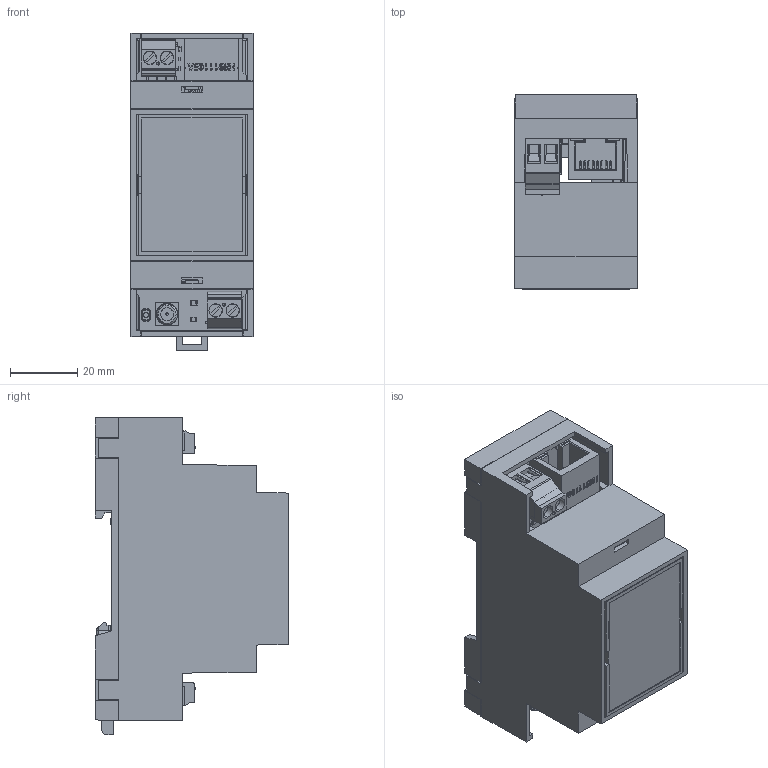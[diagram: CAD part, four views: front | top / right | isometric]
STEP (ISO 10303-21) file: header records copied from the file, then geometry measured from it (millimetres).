
FILE_DESCRIPTION(/* description */ (''),/* implementation_level */ '2;1');
FILE_NAME(/* name */ 'C:\Enapter\CAD\Modules\ENP-R485-ETH_Cad_3d.stp',/* time_stamp */ '2020-03-20T16:13:37+03:00',/* author */ ('IgorAzarkh'),/* organization */ (''),/* preprocessor_version */ 'ST-DEVELOPER v18',/* originating_system */ 'AutoCAD Mechanical',/* authorisation */ '');
FILE_SCHEMA (('AUTOMOTIVE_DESIGN { 1 0 10303 214 3 1 1 }'));
Products named in the file (51): Product; ENP-RS485-ETH; D2MG-BASE; D2MG-BODY; D2MG-COVER; D3MG-WALL-CLIP; ENP-ETH-BOARD-TOP; ENP-ETH-BOARD-BOTTOM; L_Bourns_SRN6045TA; SOLID; ESP32-WROOM-32; SOLID$1$ATF; HR911105A; COMPOUND; QFN32_5x5; SOLID$4$ATF; SOT-23-6; SOLID$5$ATF; C_1210_3225Metric; SOLID$8$ATF; C_0402_1005Metric; SOLID$3$ATF; C_0603_1608Metric; SOLID$9$ATF; SW_SPST_B3U-1000P; SOLID$11$ATF; ipex; SOLID$13$ATF; SMA-J; COMPOUND$2$ATF; PinSocket_1x06_P2.54mm_Vertical; SOLID$14$ATF; LED_0805_2012Metric; SOLID$15$ATF; R_0603_1608Metric; SOLID$2$ATF; C_0805_2012Metric; SOLID$7$ATF; MKDS_3-2-5$08; COMPOUND$1$ATF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
Assembly tree (101 placements, depth 5):
  Product
    ENP-RS485-ETH
      D2MG-BASE
      D2MG-BODY
      D2MG-COVER
      D3MG-WALL-CLIP
      ENP-ETH-BOARD-TOP
        R_0402_1005Metric  x9
          SOLID$10$ATF
        R_0603_1608Metric  x2
          SOLID$2$ATF
        C_0805_2012Metric  x2
          SOLID$7$ATF
        SOLID$2$ATF  x2
      ENP-ETH-BOARD-BOTTOM
        L_Bourns_SRN6045TA
          SOLID
        ESP32-WROOM-32
          SOLID$1$ATF
        HR911105A
          COMPOUND
        R_0603_1608Metric  x3
          SOLID$2$ATF
        C_0402_1005Metric  x5
          SOLID$3$ATF
        QFN32_5x5
          SOLID$4$ATF
        SOT-23-6
          SOLID$5$ATF
        R_0805_2012Metric  x4
          SOLID$6$ATF
        C_0805_2012Metric  x5
          SOLID$7$ATF
        C_1210_3225Metric  x4
          SOLID$8$ATF
        C_0603_1608Metric  x5
          SOLID$9$ATF
        R_0402_1005Metric  x14
          SOLID$10$ATF
        SW_SPST_B3U-1000P
          SOLID$11$ATF
        MKDS_3-2-5$08  x2
          COMPOUND$1$ATF
        MKDSN_2$5  x2
          SOLID$12$ATF
        ipex
          SOLID$13$ATF
        SMA-J
          COMPOUND$2$ATF
        PinSocket_1x06_P2.54mm_Vertical
          SOLID$14$ATF
        LED_0805_2012Metric  x2
          SOLID$15$ATF
        SOIC-8_3.9x4.9mm_P1.27mm
          SOLID$16$ATF
        PinHeader_1x02_P2.54mm_Vertical
          SOLID$17$ATF
        COMPOUND$3$ATF
Bounding box: 36.3 x 57.7 x 94.43 mm (x, y, z)
Volume: 49769.2 mm3; surface area: 62006.5 mm2
Topology: 89 solids, 838 shells, 6253 faces, 18036 edges, 12833 vertices
Faces by surface type: plane 4632, cylinder 1386, bspline 86, torus 55, cone 54, sphere 40
Full cylindrical faces by diameter (mm): 0.3 x8, 0.5 x16, 0.6 x1, 0.7 x22, 0.8 x3, 0.9 x12, 1 x16, 1.2 x1, 1.3 x4, 1.5 x6, 1.7 x2, 1.762 x4, 2 x4, 3.2 x6
Entity records: 173656 total; most frequent: CARTESIAN_POINT 45707, DIRECTION 25404, ORIENTED_EDGE 23924, EDGE_CURVE 13805, LINE 11206, VECTOR 11206, VERTEX_POINT 10094, AXIS2_PLACEMENT_3D 7099
